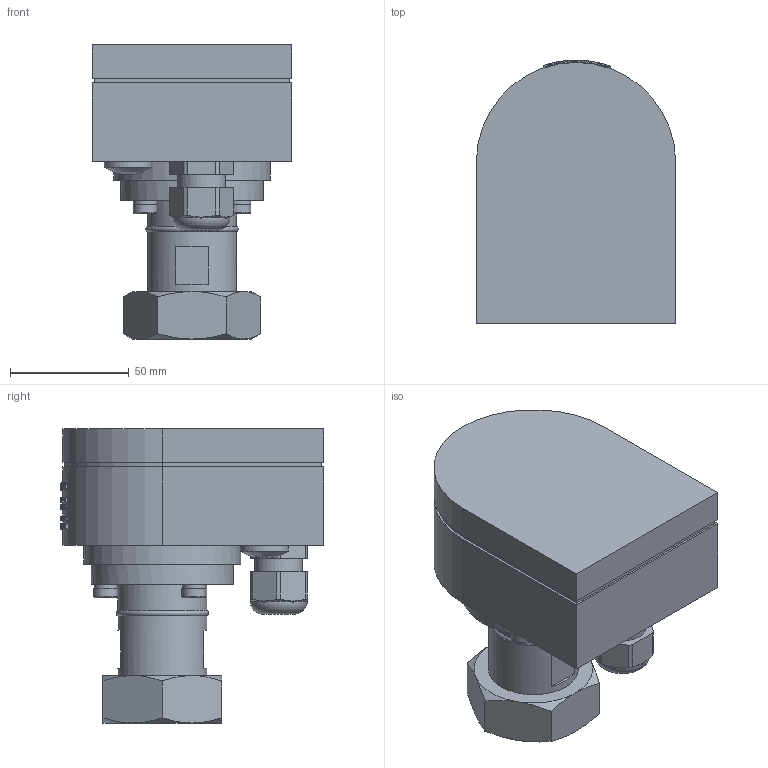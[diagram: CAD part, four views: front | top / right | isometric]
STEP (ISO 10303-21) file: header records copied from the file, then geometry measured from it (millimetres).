
FILE_DESCRIPTION(/* description */ (''),/* implementation_level */ '2;1');
FILE_NAME(/* name */ 'P:\ILC\LC-L-MR\LC-L-MR.stp',/* time_stamp */ '2020-06-05T13:25:11+02:00',/* author */ ('neufeld'),/* organization */ (''),/* preprocessor_version */ 'ST-DEVELOPER v17',/* originating_system */ 'Autodesk Inventor 2019',/* authorisation */ '');
FILE_SCHEMA (('AUTOMOTIVE_DESIGN { 1 0 10303 214 3 1 1 }'));
Products named in the file (1): LC-L-MR_AG-Kunde
Bounding box: 84 x 111 x 123.88 mm (x, y, z)
Volume: 542362.5 mm3; surface area: 61884.7 mm2
Topology: 1 solids, 3 shells, 1215 faces, 3295 edges, 2207 vertices
Faces by surface type: plane 710, bspline 354, cylinder 121, cone 22, torus 8
Full cylindrical faces by diameter (mm): 6 x3, 10 x3, 10.9 x1, 13.5 x1, 20 x2, 29 x1, 34.92 x1, 37.5 x2, 38 x1, 38.1 x1, 42 x1, 42.4 x1, 58.45 x1, 60 x1, 66 x1
Entity records: 50138 total; most frequent: CARTESIAN_POINT 21061, ORIENTED_EDGE 6568, DIRECTION 5060, EDGE_CURVE 3284, VERTEX_POINT 2191, AXIS2_PLACEMENT_3D 1743, LINE 1574, VECTOR 1574
